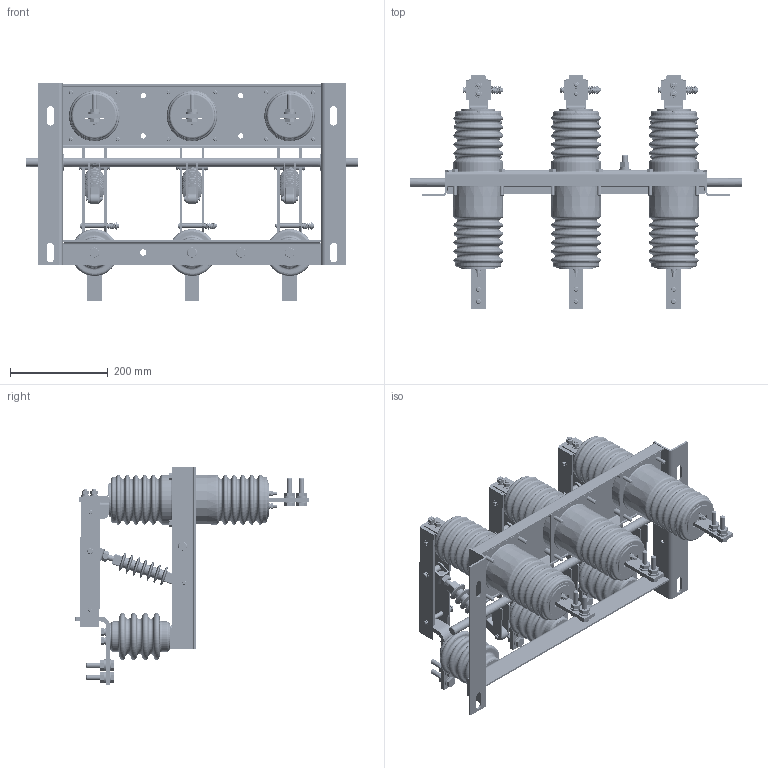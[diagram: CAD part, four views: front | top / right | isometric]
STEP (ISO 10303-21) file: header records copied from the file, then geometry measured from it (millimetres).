
FILE_DESCRIPTION (( 'STEP AP214' ), '1' );
FILE_NAME ('Ðàçúåäèíèòåëü âûñîêîâîëüòíûé ÐÂÔ-10630-II-È2-Ó3.STEP', '2023-02-03T11:03:22', ( '' ), ( '' ), 'SwSTEP 2.0', 'SolidWorks 2018', '' );
FILE_SCHEMA (( 'AUTOMOTIVE_DESIGN' ));
Length unit declared in the file: millimetre
Products named in the file (1): Ðàçúåäèíèòåëü âûñîêîâîëüòíûé ÐÂÔ-10630-II-È2-Ó3
Bounding box: 680 x 479 x 446 mm (x, y, z)
Volume: 10308278.5 mm3; surface area: 1753078.5 mm2
Topology: 1 solids, 7 shells, 2821 faces, 7002 edges, 4435 vertices
Faces by surface type: plane 1615, cylinder 755, cone 237, torus 190, bspline 24
Full cylindrical faces by diameter (mm): 4 x18, 5 x24, 6 x18, 6.4 x6, 7 x6, 8 x66, 8.2 x38, 8.4 x12, 8.611 x1, 8.772 x5, 8.813 x1, 8.854 x5, 8.878 x5, 9 x6, 9.239 x2, 9.375 x2, 9.497 x2, 9.652 x1, 10 x24, 11 x4, 12 x32, 13 x5, 13.079 x5, 13.282 x5, 13.583 x5, 16 x18, 18 x2, 18.95 x3, 22 x18, 24 x28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
Entity records: 162116 total; most frequent: CARTESIAN_POINT 68411, DIRECTION 12773, ORIENTED_EDGE 11960, EDGE_CURVE 5980, AXIS2_PLACEMENT_3D 4863, VERTEX_POINT 4248, EDGE_LOOP 4210, FACE_OUTER_BOUND 3416
